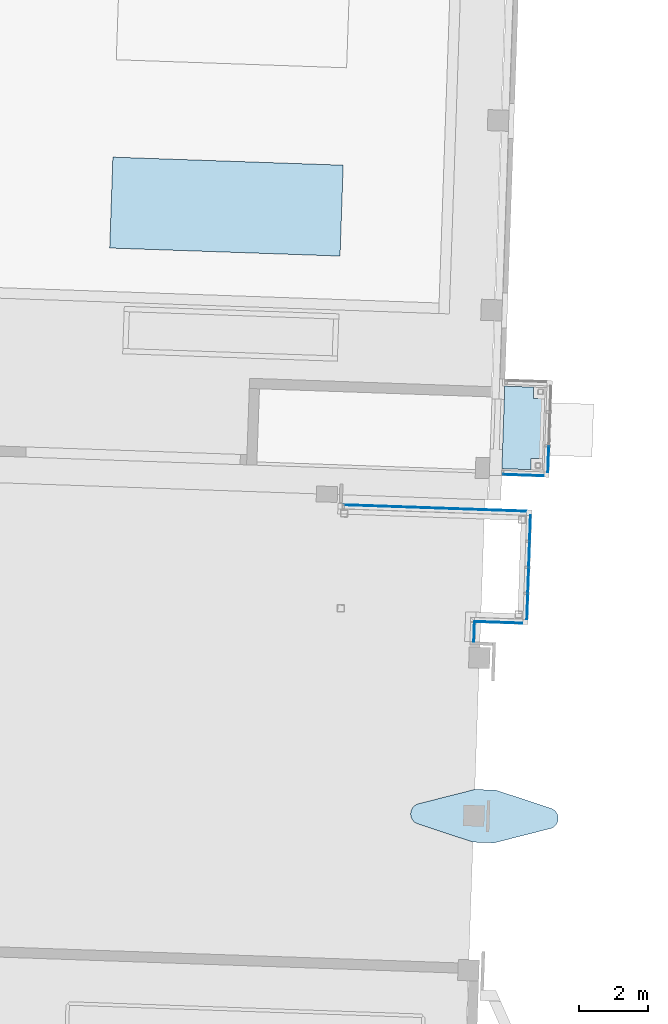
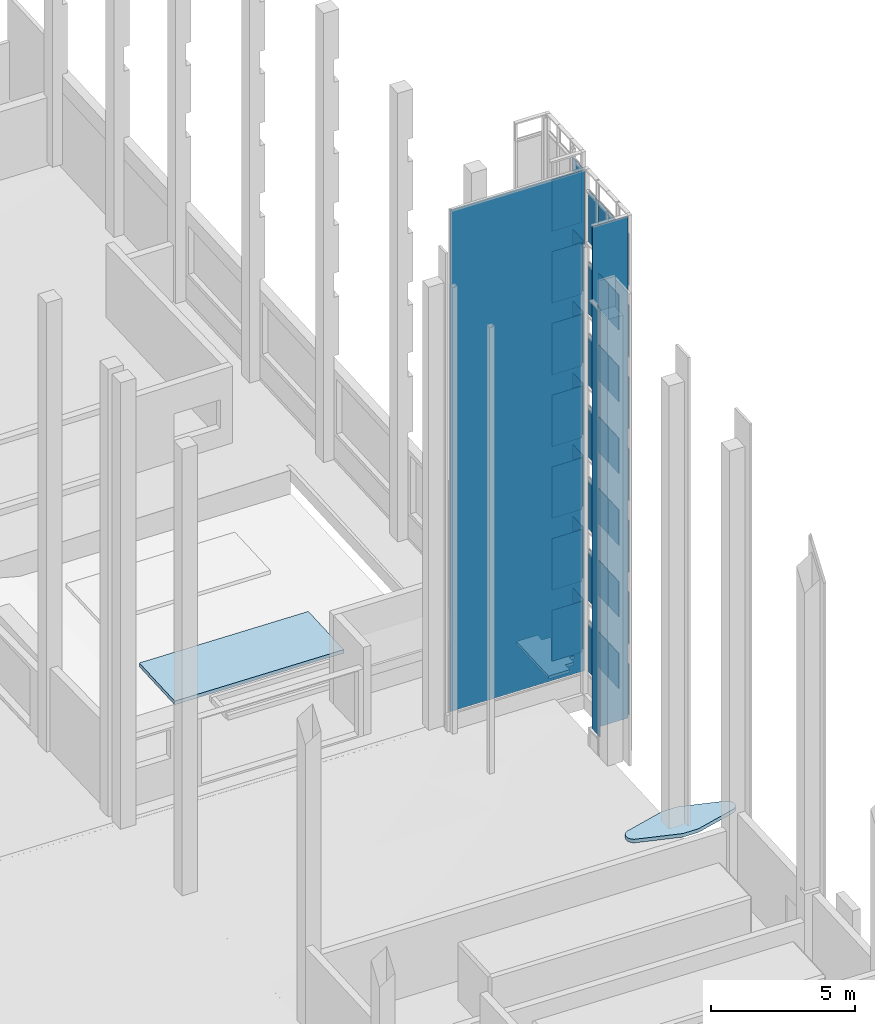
# One storey, part 23 of 44: 46 plates, 3 slabs, 6 elements without a shape of their own.
"""IFC2X3 building model written with IfcOpenShell, lengths in feet."""

from ifc_helpers import new_model, entity, si_unit, converted_unit, derived_unit, direction, frame, frame_2d, origin, origin_2d_with_axis, place, context, subcontext, project, spatial, polyline, circle_curve, parameter, trimmed, segment, composite_curve, rectangle, outline, extrude, source, transform, mapped, material, layer, layer_set, layer_usage, type_object, type_shapes, element, aggregate, save


model = new_model("IFC2X3")

# Units and contexts
model_context = context("Model", 3, precision=0.0001, world=origin(), true_north=direction((0.999390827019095, 0.0348994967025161)))
body_context = subcontext(model_context, "Body", "Model", "MODEL_VIEW")
ifc_project = project(units=[converted_unit("LENGTHUNIT", "FOOT", entity("IfcRatioMeasure", 0.3048), si_unit("LENGTHUNIT", "METRE"), dimensions=[1, 0, 0, 0, 0, 0, 0]), converted_unit("AREAUNIT", "SQUARE FOOT", entity("IfcRatioMeasure", 0.09290304), si_unit("AREAUNIT", "SQUARE_METRE"), dimensions=[2, 0, 0, 0, 0, 0, 0]), converted_unit("VOLUMEUNIT", "CUBIC FOOT", entity("IfcRatioMeasure", 0.028316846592), si_unit("VOLUMEUNIT", "CUBIC_METRE"), dimensions=[3, 0, 0, 0, 0, 0, 0]), converted_unit("PLANEANGLEUNIT", "DEGREE", entity("IfcRatioMeasure", 0.0174532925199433), si_unit("PLANEANGLEUNIT", "RADIAN"), dimensions=[0, 0, 0, 0, 0, 0, 0]), si_unit("MASSUNIT", "GRAM", prefix="KILO"), si_unit("TIMEUNIT", "SECOND"), si_unit("FREQUENCYUNIT", "HERTZ"), si_unit("THERMODYNAMICTEMPERATUREUNIT", "DEGREE_CELSIUS"), derived_unit("THERMALTRANSMITTANCEUNIT", [(si_unit("MASSUNIT", "GRAM", prefix="KILO"), 1), (si_unit("THERMODYNAMICTEMPERATUREUNIT", "KELVIN"), -1), (si_unit("TIMEUNIT", "SECOND"), -3)]), derived_unit("VOLUMETRICFLOWRATEUNIT", [(si_unit("LENGTHUNIT", "METRE"), 3), (si_unit("TIMEUNIT", "SECOND"), -1)]), si_unit("ELECTRICCURRENTUNIT", "AMPERE"), si_unit("ELECTRICVOLTAGEUNIT", "VOLT"), si_unit("POWERUNIT", "WATT"), si_unit("FORCEUNIT", "NEWTON"), si_unit("ILLUMINANCEUNIT", "LUX"), si_unit("LUMINOUSFLUXUNIT", "LUMEN"), si_unit("LUMINOUSINTENSITYUNIT", "CANDELA"), derived_unit("USERDEFINED", [(si_unit("MASSUNIT", "GRAM", prefix="KILO"), -1), (si_unit("LENGTHUNIT", "METRE"), -2), (si_unit("TIMEUNIT", "SECOND"), 3), (si_unit("LUMINOUSFLUXUNIT", "LUMEN"), 1)]), derived_unit("LINEARVELOCITYUNIT", [(si_unit("LENGTHUNIT", "METRE"), 1), (si_unit("TIMEUNIT", "SECOND"), -1)]), si_unit("PRESSUREUNIT", "PASCAL"), derived_unit("USERDEFINED", [(si_unit("LENGTHUNIT", "METRE"), -2), (si_unit("MASSUNIT", "GRAM", prefix="KILO"), 1), (si_unit("TIMEUNIT", "SECOND"), -2)])], contexts=[model_context])

# Site, building, storey
site_placement = place(None, frame((892.518771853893, 322.38689265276, 0.00393700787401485), z_axis=(0.0, 0.0, 1.0), x_axis=(0.0348994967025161, 0.999390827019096, 0.0)))
site = spatial("IfcSite", under=ifc_project, at=site_placement, Name="Default", CompositionType="ELEMENT")
building_placement = place(site_placement, origin())
building = spatial("IfcBuilding", under=site, at=building_placement, CompositionType="ELEMENT")
storey_placement = place(building_placement, frame((0.0, 0.0, 544.75)))
storey = spatial("IfcBuildingStorey", under=building, at=storey_placement, Name="Exist Garage - Ground Level", CompositionType="ELEMENT", Elevation=544.75)

# Curtain wall, plate
curtain_wall_type = type_object("IfcCurtainWallType", Name="Curtain Wall:(Existing) Curtainwall - Blank", PredefinedType="NOTDEFINED")
curtain_wall_1_placement = place(storey_placement, frame((0.0, 0.0, -544.75)))
curtain_wall_1 = element("IfcCurtainWall", 1, at=curtain_wall_1_placement, inside=storey, type_object=curtain_wall_type, Name="Curtain Wall:(Existing) Curtainwall - Blank", ObjectType="Curtain Wall:(Existing) Curtainwall - Blank")
ifc_material_1 = material(Name="Glazing - Core & Shell Curtain Wall")
plate_type_1 = type_object("IfcPlateType", Name="1\" Insulated Clear Glass", PredefinedType="CURTAIN_PANEL", material=ifc_material_1)
shared_shape_1 = source(origin(), body_context, "Body", "SweptSolid", [
    extrude(rectangle(XDim=0.0833333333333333, YDim=17.3732732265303, at=origin_2d_with_axis()), frame((0.0, 0.0, 0.0), z_axis=(0.0, 0.0, 1.0), x_axis=(0.0, 1.0, 0.0)), (0.0, 0.0, 1.0), 69.9479166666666),
])
type_shapes(plate_type_1, [shared_shape_1])
plate_1_placement = place(curtain_wall_1_placement, frame((101.968963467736, 241.450590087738, 547.130208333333), z_axis=(0.0, 0.0, 1.0), x_axis=(0.0, -1.0, 0.0)))
plate_1 = element("IfcPlate", 2, at=plate_1_placement, type_object=plate_type_1, material=ifc_material_1, Name="System Panel:1\" Insulated Clear Glass", ObjectType="1\" Insulated Clear Glass", context=body_context, shape_type="MappedRepresentation", body=[
    mapped(shared_shape_1, transform((0.0, 0.0, 0.0), scale=1.0)),
])
aggregate(curtain_wall_1, [plate_1])

# Curtain wall, plates
curtain_wall_2_placement = place(storey_placement, frame((0.0, 0.0, -544.75)))
curtain_wall_2 = element("IfcCurtainWall", 3, at=curtain_wall_2_placement, inside=storey, type_object=curtain_wall_type, Name="Curtain Wall:(Existing) Curtainwall - Blank", ObjectType="Curtain Wall:(Existing) Curtainwall - Blank")
plate_type_2 = type_object("IfcPlateType", Name="1\" Insulated Clear Glass", PredefinedType="CURTAIN_PANEL", material=ifc_material_1)
shared_shape_2 = source(origin(), body_context, "Body", "SweptSolid", [
    extrude(rectangle(XDim=7.09375, YDim=2.44270833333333, at=frame_2d((0.475694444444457, 0.0), x_axis=(1.0, 0.0))), frame((0.0, -0.0416666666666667, 3.07118055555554), z_axis=(0.0, 1.0, 0.0), x_axis=(0.0, 0.0, 1.0)), (0.0, 0.0, 1.0), 0.0833333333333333),
])
type_shapes(plate_type_2, [shared_shape_2])
plate_2_placement = place(curtain_wall_2_placement, frame((100.372609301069, 232.388953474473, 547.130208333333), z_axis=(0.0, 0.0, 1.0), x_axis=(-1.0, 0.0, 0.0)))
plate_2 = element("IfcPlate", 4, at=plate_2_placement, type_object=plate_type_2, material=ifc_material_1, Name="System Panel:1\" Insulated Clear Glass", ObjectType="1\" Insulated Clear Glass", context=body_context, shape_type="MappedRepresentation", body=[
    mapped(shared_shape_2, transform((0.0, 0.0, 0.0), scale=1.0)),
])
plate_3_placement = place(curtain_wall_2_placement, frame((92.9403176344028, 232.388953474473, 547.130208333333), z_axis=(0.0, 0.0, 1.0), x_axis=(-1.0, 0.0, 0.0)))
plate_3 = element("IfcPlate", 5, at=plate_3_placement, type_object=plate_type_2, material=ifc_material_1, Name="System Panel:1\" Insulated Clear Glass", ObjectType="1\" Insulated Clear Glass", context=body_context, shape_type="MappedRepresentation", body=[
    mapped(shared_shape_2, transform((0.0, 0.0, 0.0), scale=1.0)),
])
plate_type_3 = type_object("IfcPlateType", Name="1\" Insulated Clear Glass", PredefinedType="CURTAIN_PANEL", material=ifc_material_1)
shared_shape_3 = source(origin(), body_context, "Body", "SweptSolid", [
    extrude(rectangle(XDim=0.0833333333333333, YDim=2.41666666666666, at=origin_2d_with_axis()), frame((0.0, 0.0, 0.0), z_axis=(0.0, 0.0, 1.0), x_axis=(0.0, 1.0, 0.0)), (0.0, 0.0, 1.0), 4.94791666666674),
])
type_shapes(plate_type_3, [shared_shape_3])
plate_4_placement = place(curtain_wall_2_placement, frame((97.8908384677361, 232.388953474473, 549.276041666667), z_axis=(0.0, 0.0, 1.0), x_axis=(-1.0, 0.0, 0.0)))
plate_4 = element("IfcPlate", 6, at=plate_4_placement, type_object=plate_type_3, material=ifc_material_1, Name="System Panel:1\" Insulated Clear Glass", ObjectType="1\" Insulated Clear Glass", context=body_context, shape_type="MappedRepresentation", body=[
    mapped(shared_shape_3, transform((0.0, 0.0, 0.0), scale=1.0)),
])
plate_5_placement = place(curtain_wall_2_placement, frame((95.4220884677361, 232.388953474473, 549.276041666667), z_axis=(0.0, 0.0, 1.0), x_axis=(-1.0, 0.0, 0.0)))
plate_5 = element("IfcPlate", 7, at=plate_5_placement, type_object=plate_type_3, material=ifc_material_1, Name="System Panel:1\" Insulated Clear Glass", ObjectType="1\" Insulated Clear Glass", context=body_context, shape_type="MappedRepresentation", body=[
    mapped(shared_shape_3, transform((0.0, 0.0, 0.0), scale=1.0)),
])
plate_6_placement = place(curtain_wall_2_placement, frame((97.8908384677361, 232.388953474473, 559.276041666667), z_axis=(0.0, 0.0, 1.0), x_axis=(-1.0, 0.0, 0.0)))
plate_6 = element("IfcPlate", 8, at=plate_6_placement, type_object=plate_type_3, material=ifc_material_1, Name="System Panel:1\" Insulated Clear Glass", ObjectType="1\" Insulated Clear Glass", context=body_context, shape_type="MappedRepresentation", body=[
    mapped(shared_shape_3, transform((0.0, 0.0, 0.0), scale=1.0)),
])
plate_7_placement = place(curtain_wall_2_placement, frame((95.4220884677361, 232.388953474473, 559.276041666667), z_axis=(0.0, 0.0, 1.0), x_axis=(-1.0, 0.0, 0.0)))
plate_7 = element("IfcPlate", 9, at=plate_7_placement, type_object=plate_type_3, material=ifc_material_1, Name="System Panel:1\" Insulated Clear Glass", ObjectType="1\" Insulated Clear Glass", context=body_context, shape_type="MappedRepresentation", body=[
    mapped(shared_shape_3, transform((0.0, 0.0, 0.0), scale=1.0)),
])
plate_8_placement = place(curtain_wall_2_placement, frame((97.8908384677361, 232.388953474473, 569.276041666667), z_axis=(0.0, 0.0, 1.0), x_axis=(-1.0, 0.0, 0.0)))
plate_8 = element("IfcPlate", 10, at=plate_8_placement, type_object=plate_type_3, material=ifc_material_1, Name="System Panel:1\" Insulated Clear Glass", ObjectType="1\" Insulated Clear Glass", context=body_context, shape_type="MappedRepresentation", body=[
    mapped(shared_shape_3, transform((0.0, 0.0, 0.0), scale=1.0)),
])
plate_9_placement = place(curtain_wall_2_placement, frame((95.4220884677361, 232.388953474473, 569.276041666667), z_axis=(0.0, 0.0, 1.0), x_axis=(-1.0, 0.0, 0.0)))
plate_9 = element("IfcPlate", 11, at=plate_9_placement, type_object=plate_type_3, material=ifc_material_1, Name="System Panel:1\" Insulated Clear Glass", ObjectType="1\" Insulated Clear Glass", context=body_context, shape_type="MappedRepresentation", body=[
    mapped(shared_shape_3, transform((0.0, 0.0, 0.0), scale=1.0)),
])
plate_10_placement = place(curtain_wall_2_placement, frame((97.8908384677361, 232.388953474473, 579.276041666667), z_axis=(0.0, 0.0, 1.0), x_axis=(-1.0, 0.0, 0.0)))
plate_10 = element("IfcPlate", 12, at=plate_10_placement, type_object=plate_type_3, material=ifc_material_1, Name="System Panel:1\" Insulated Clear Glass", ObjectType="1\" Insulated Clear Glass", context=body_context, shape_type="MappedRepresentation", body=[
    mapped(shared_shape_3, transform((0.0, 0.0, 0.0), scale=1.0)),
])
plate_11_placement = place(curtain_wall_2_placement, frame((95.4220884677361, 232.388953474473, 579.276041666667), z_axis=(0.0, 0.0, 1.0), x_axis=(-1.0, 0.0, 0.0)))
plate_11 = element("IfcPlate", 13, at=plate_11_placement, type_object=plate_type_3, material=ifc_material_1, Name="System Panel:1\" Insulated Clear Glass", ObjectType="1\" Insulated Clear Glass", context=body_context, shape_type="MappedRepresentation", body=[
    mapped(shared_shape_3, transform((0.0, 0.0, 0.0), scale=1.0)),
])
plate_12_placement = place(curtain_wall_2_placement, frame((97.8908384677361, 232.388953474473, 589.276041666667), z_axis=(0.0, 0.0, 1.0), x_axis=(-1.0, 0.0, 0.0)))
plate_12 = element("IfcPlate", 14, at=plate_12_placement, type_object=plate_type_3, material=ifc_material_1, Name="System Panel:1\" Insulated Clear Glass", ObjectType="1\" Insulated Clear Glass", context=body_context, shape_type="MappedRepresentation", body=[
    mapped(shared_shape_3, transform((0.0, 0.0, 0.0), scale=1.0)),
])
plate_13_placement = place(curtain_wall_2_placement, frame((95.4220884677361, 232.388953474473, 589.276041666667), z_axis=(0.0, 0.0, 1.0), x_axis=(-1.0, 0.0, 0.0)))
plate_13 = element("IfcPlate", 15, at=plate_13_placement, type_object=plate_type_3, material=ifc_material_1, Name="System Panel:1\" Insulated Clear Glass", ObjectType="1\" Insulated Clear Glass", context=body_context, shape_type="MappedRepresentation", body=[
    mapped(shared_shape_3, transform((0.0, 0.0, 0.0), scale=1.0)),
])
plate_14_placement = place(curtain_wall_2_placement, frame((97.8908384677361, 232.388953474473, 599.276041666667), z_axis=(0.0, 0.0, 1.0), x_axis=(-1.0, 0.0, 0.0)))
plate_14 = element("IfcPlate", 16, at=plate_14_placement, type_object=plate_type_3, material=ifc_material_1, Name="System Panel:1\" Insulated Clear Glass", ObjectType="1\" Insulated Clear Glass", context=body_context, shape_type="MappedRepresentation", body=[
    mapped(shared_shape_3, transform((0.0, 0.0, 0.0), scale=1.0)),
])
plate_15_placement = place(curtain_wall_2_placement, frame((95.4220884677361, 232.388953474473, 599.276041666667), z_axis=(0.0, 0.0, 1.0), x_axis=(-1.0, 0.0, 0.0)))
plate_15 = element("IfcPlate", 17, at=plate_15_placement, type_object=plate_type_3, material=ifc_material_1, Name="System Panel:1\" Insulated Clear Glass", ObjectType="1\" Insulated Clear Glass", context=body_context, shape_type="MappedRepresentation", body=[
    mapped(shared_shape_3, transform((0.0, 0.0, 0.0), scale=1.0)),
])
plate_16_placement = place(curtain_wall_2_placement, frame((97.8908384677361, 232.388953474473, 609.276041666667), z_axis=(0.0, 0.0, 1.0), x_axis=(-1.0, 0.0, 0.0)))
plate_16 = element("IfcPlate", 18, at=plate_16_placement, type_object=plate_type_3, material=ifc_material_1, Name="System Panel:1\" Insulated Clear Glass", ObjectType="1\" Insulated Clear Glass", context=body_context, shape_type="MappedRepresentation", body=[
    mapped(shared_shape_3, transform((0.0, 0.0, 0.0), scale=1.0)),
])
plate_17_placement = place(curtain_wall_2_placement, frame((95.4220884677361, 232.388953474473, 609.276041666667), z_axis=(0.0, 0.0, 1.0), x_axis=(-1.0, 0.0, 0.0)))
plate_17 = element("IfcPlate", 19, at=plate_17_placement, type_object=plate_type_3, material=ifc_material_1, Name="System Panel:1\" Insulated Clear Glass", ObjectType="1\" Insulated Clear Glass", context=body_context, shape_type="MappedRepresentation", body=[
    mapped(shared_shape_3, transform((0.0, 0.0, 0.0), scale=1.0)),
])
plate_type_4 = type_object("IfcPlateType", Name="1\" Insulated Clear Glass", PredefinedType="CURTAIN_PANEL", material=ifc_material_1)
shared_shape_4 = source(origin(), body_context, "Body", "SweptSolid", [
    extrude(rectangle(XDim=7.19791666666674, YDim=2.44270833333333, at=frame_2d((0.458333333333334, 0.0), x_axis=(1.0, 0.0))), frame((0.0, -0.0416666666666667, 3.14062500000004), z_axis=(0.0, 1.0, 0.0), x_axis=(0.0, 0.0, 1.0)), (0.0, 0.0, 1.0), 0.0833333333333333),
])
type_shapes(plate_type_4, [shared_shape_4])
plate_18_placement = place(curtain_wall_2_placement, frame((100.372609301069, 232.388953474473, 557.026041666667), z_axis=(0.0, 0.0, 1.0), x_axis=(-1.0, 0.0, 0.0)))
plate_18 = element("IfcPlate", 20, at=plate_18_placement, type_object=plate_type_4, material=ifc_material_1, Name="System Panel:1\" Insulated Clear Glass", ObjectType="1\" Insulated Clear Glass", context=body_context, shape_type="MappedRepresentation", body=[
    mapped(shared_shape_4, transform((0.0, 0.0, 0.0), scale=1.0)),
])
plate_19_placement = place(curtain_wall_2_placement, frame((92.9403176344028, 232.388953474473, 557.026041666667), z_axis=(0.0, 0.0, 1.0), x_axis=(-1.0, 0.0, 0.0)))
plate_19 = element("IfcPlate", 21, at=plate_19_placement, type_object=plate_type_4, material=ifc_material_1, Name="System Panel:1\" Insulated Clear Glass", ObjectType="1\" Insulated Clear Glass", context=body_context, shape_type="MappedRepresentation", body=[
    mapped(shared_shape_4, transform((0.0, 0.0, 0.0), scale=1.0)),
])
plate_20_placement = place(curtain_wall_2_placement, frame((100.372609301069, 232.388953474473, 567.026041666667), z_axis=(0.0, 0.0, 1.0), x_axis=(-1.0, 0.0, 0.0)))
plate_20 = element("IfcPlate", 22, at=plate_20_placement, type_object=plate_type_4, material=ifc_material_1, Name="System Panel:1\" Insulated Clear Glass", ObjectType="1\" Insulated Clear Glass", context=body_context, shape_type="MappedRepresentation", body=[
    mapped(shared_shape_4, transform((0.0, 0.0, 0.0), scale=1.0)),
])
plate_21_placement = place(curtain_wall_2_placement, frame((92.9403176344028, 232.388953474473, 567.026041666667), z_axis=(0.0, 0.0, 1.0), x_axis=(-1.0, 0.0, 0.0)))
plate_21 = element("IfcPlate", 23, at=plate_21_placement, type_object=plate_type_4, material=ifc_material_1, Name="System Panel:1\" Insulated Clear Glass", ObjectType="1\" Insulated Clear Glass", context=body_context, shape_type="MappedRepresentation", body=[
    mapped(shared_shape_4, transform((0.0, 0.0, 0.0), scale=1.0)),
])
plate_22_placement = place(curtain_wall_2_placement, frame((100.372609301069, 232.388953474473, 577.026041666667), z_axis=(0.0, 0.0, 1.0), x_axis=(-1.0, 0.0, 0.0)))
plate_22 = element("IfcPlate", 24, at=plate_22_placement, type_object=plate_type_4, material=ifc_material_1, Name="System Panel:1\" Insulated Clear Glass", ObjectType="1\" Insulated Clear Glass", context=body_context, shape_type="MappedRepresentation", body=[
    mapped(shared_shape_4, transform((0.0, 0.0, 0.0), scale=1.0)),
])
plate_23_placement = place(curtain_wall_2_placement, frame((92.9403176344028, 232.388953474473, 577.026041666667), z_axis=(0.0, 0.0, 1.0), x_axis=(-1.0, 0.0, 0.0)))
plate_23 = element("IfcPlate", 25, at=plate_23_placement, type_object=plate_type_4, material=ifc_material_1, Name="System Panel:1\" Insulated Clear Glass", ObjectType="1\" Insulated Clear Glass", context=body_context, shape_type="MappedRepresentation", body=[
    mapped(shared_shape_4, transform((0.0, 0.0, 0.0), scale=1.0)),
])
plate_24_placement = place(curtain_wall_2_placement, frame((100.372609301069, 232.388953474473, 587.026041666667), z_axis=(0.0, 0.0, 1.0), x_axis=(-1.0, 0.0, 0.0)))
plate_24 = element("IfcPlate", 26, at=plate_24_placement, type_object=plate_type_4, material=ifc_material_1, Name="System Panel:1\" Insulated Clear Glass", ObjectType="1\" Insulated Clear Glass", context=body_context, shape_type="MappedRepresentation", body=[
    mapped(shared_shape_4, transform((0.0, 0.0, 0.0), scale=1.0)),
])
plate_25_placement = place(curtain_wall_2_placement, frame((92.9403176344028, 232.388953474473, 587.026041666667), z_axis=(0.0, 0.0, 1.0), x_axis=(-1.0, 0.0, 0.0)))
plate_25 = element("IfcPlate", 27, at=plate_25_placement, type_object=plate_type_4, material=ifc_material_1, Name="System Panel:1\" Insulated Clear Glass", ObjectType="1\" Insulated Clear Glass", context=body_context, shape_type="MappedRepresentation", body=[
    mapped(shared_shape_4, transform((0.0, 0.0, 0.0), scale=1.0)),
])
plate_26_placement = place(curtain_wall_2_placement, frame((100.372609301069, 232.388953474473, 597.026041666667), z_axis=(0.0, 0.0, 1.0), x_axis=(-1.0, 0.0, 0.0)))
plate_26 = element("IfcPlate", 28, at=plate_26_placement, type_object=plate_type_4, material=ifc_material_1, Name="System Panel:1\" Insulated Clear Glass", ObjectType="1\" Insulated Clear Glass", context=body_context, shape_type="MappedRepresentation", body=[
    mapped(shared_shape_4, transform((0.0, 0.0, 0.0), scale=1.0)),
])
plate_27_placement = place(curtain_wall_2_placement, frame((92.9403176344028, 232.388953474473, 597.026041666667), z_axis=(0.0, 0.0, 1.0), x_axis=(-1.0, 0.0, 0.0)))
plate_27 = element("IfcPlate", 29, at=plate_27_placement, type_object=plate_type_4, material=ifc_material_1, Name="System Panel:1\" Insulated Clear Glass", ObjectType="1\" Insulated Clear Glass", context=body_context, shape_type="MappedRepresentation", body=[
    mapped(shared_shape_4, transform((0.0, 0.0, 0.0), scale=1.0)),
])
plate_28_placement = place(curtain_wall_2_placement, frame((100.372609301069, 232.388953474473, 607.026041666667), z_axis=(0.0, 0.0, 1.0), x_axis=(-1.0, 0.0, 0.0)))
plate_28 = element("IfcPlate", 30, at=plate_28_placement, type_object=plate_type_4, material=ifc_material_1, Name="System Panel:1\" Insulated Clear Glass", ObjectType="1\" Insulated Clear Glass", context=body_context, shape_type="MappedRepresentation", body=[
    mapped(shared_shape_4, transform((0.0, 0.0, 0.0), scale=1.0)),
])
plate_29_placement = place(curtain_wall_2_placement, frame((92.9403176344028, 232.388953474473, 607.026041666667), z_axis=(0.0, 0.0, 1.0), x_axis=(-1.0, 0.0, 0.0)))
plate_29 = element("IfcPlate", 31, at=plate_29_placement, type_object=plate_type_4, material=ifc_material_1, Name="System Panel:1\" Insulated Clear Glass", ObjectType="1\" Insulated Clear Glass", context=body_context, shape_type="MappedRepresentation", body=[
    mapped(shared_shape_4, transform((0.0, 0.0, 0.0), scale=1.0)),
])
aggregate(curtain_wall_2, [plate_2, plate_3, plate_4, plate_5, plate_18, plate_19, plate_6, plate_7, plate_20, plate_21, plate_8, plate_9, plate_22, plate_23, plate_10, plate_11, plate_24, plate_25, plate_12, plate_13, plate_26, plate_27, plate_14, plate_15, plate_28, plate_29, plate_16, plate_17])

# Curtain wall, plate
curtain_wall_3_placement = place(storey_placement, frame((0.0, 0.0, -544.75)))
curtain_wall_3 = element("IfcCurtainWall", 32, at=curtain_wall_3_placement, inside=storey, type_object=curtain_wall_type, Name="Curtain Wall:(Existing) Curtainwall - Blank", ObjectType="Curtain Wall:(Existing) Curtainwall - Blank")
plate_type_5 = type_object("IfcPlateType", Name="1\" Insulated Clear Glass", PredefinedType="CURTAIN_PANEL", material=ifc_material_1)
shared_shape_5 = source(origin(), body_context, "Body", "SweptSolid", [
    extrude(rectangle(XDim=0.0833333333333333, YDim=4.58333333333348, at=origin_2d_with_axis()), frame((0.0, 0.0, 0.0), z_axis=(0.0, 0.0, 1.0), x_axis=(0.0, 1.0, 0.0)), (0.0, 0.0, 1.0), 69.9479166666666),
])
type_shapes(plate_type_5, [shared_shape_5])
plate_30_placement = place(curtain_wall_3_placement, frame((91.3439634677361, 235.05562014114, 547.130208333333), z_axis=(0.0, 0.0, 1.0), x_axis=(0.0, 1.0, 0.0)))
plate_30 = element("IfcPlate", 33, at=plate_30_placement, type_object=plate_type_5, material=ifc_material_1, Name="System Panel:1\" Insulated Clear Glass", ObjectType="1\" Insulated Clear Glass", context=body_context, shape_type="MappedRepresentation", body=[
    mapped(shared_shape_5, transform((0.0, 0.0, 0.0), scale=1.0)),
])
aggregate(curtain_wall_3, [plate_30])

curtain_wall_4_placement = place(storey_placement, frame((0.0, 0.0, -544.75)))
curtain_wall_4 = element("IfcCurtainWall", 34, at=curtain_wall_4_placement, inside=storey, type_object=curtain_wall_type, Name="Curtain Wall:(Existing) Curtainwall - Blank", ObjectType="Curtain Wall:(Existing) Curtainwall - Blank")
plate_type_6 = type_object("IfcPlateType", Name="1\" Insulated Clear Glass", PredefinedType="CURTAIN_PANEL", material=ifc_material_1)
shared_shape_6 = source(origin(), body_context, "Body", "SweptSolid", [
    extrude(rectangle(XDim=0.0833333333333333, YDim=1.91666666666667, at=origin_2d_with_axis()), frame((0.0, 0.0, 0.0), z_axis=(0.0, 0.0, 1.0), x_axis=(0.0, 1.0, 0.0)), (0.0, 0.0, 1.0), 59.7395833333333),
])
type_shapes(plate_type_6, [shared_shape_6])
plate_31_placement = place(curtain_wall_4_placement, frame((90.3856301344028, 237.347286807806, 547.130208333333), z_axis=(0.0, 0.0, 1.0), x_axis=(-1.0, 0.0, 0.0)))
plate_31 = element("IfcPlate", 35, at=plate_31_placement, type_object=plate_type_6, material=ifc_material_1, Name="System Panel:1\" Insulated Clear Glass", ObjectType="1\" Insulated Clear Glass", context=body_context, shape_type="MappedRepresentation", body=[
    mapped(shared_shape_6, transform((0.0, 0.0, 0.0), scale=1.0)),
])
aggregate(curtain_wall_4, [plate_31])

# Curtain wall, plates
curtain_wall_5_placement = place(storey_placement, frame((0.0, 0.0, -544.75)))
curtain_wall_5 = element("IfcCurtainWall", 36, at=curtain_wall_5_placement, inside=storey, type_object=curtain_wall_type, Name="Curtain Wall:(Existing) Curtainwall - Blank", ObjectType="Curtain Wall:(Existing) Curtainwall - Blank")
plate_type_7 = type_object("IfcPlateType", Name="1\" Insulated Clear Glass", PredefinedType="CURTAIN_PANEL", material=ifc_material_1)
shared_shape_7 = source(origin(), body_context, "Body", "SweptSolid", [
    extrude(rectangle(XDim=0.0833333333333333, YDim=3.86979166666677, at=origin_2d_with_axis()), frame((0.0, 0.0, 0.0), z_axis=(0.0, 0.0, 1.0), x_axis=(0.0, 1.0, 0.0)), (0.0, 0.0, 1.0), 7.09375),
])
type_shapes(plate_type_7, [shared_shape_7])
plate_32_placement = place(curtain_wall_5_placement, frame((105.385626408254, 233.198849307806, 547.130208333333), z_axis=(0.0, 0.0, 1.0), x_axis=(0.0, -1.0, 0.0)))
plate_32 = element("IfcPlate", 37, at=plate_32_placement, type_object=plate_type_7, material=ifc_material_1, Name="System Panel:1\" Insulated Clear Glass", ObjectType="1\" Insulated Clear Glass", context=body_context, shape_type="MappedRepresentation", body=[
    mapped(shared_shape_7, transform((0.0, 0.0, 0.0), scale=1.0)),
])
plate_type_8 = type_object("IfcPlateType", Name="1\" Insulated Clear Glass", PredefinedType="CURTAIN_PANEL", material=ifc_material_1)
shared_shape_8 = source(origin(), body_context, "Body", "SweptSolid", [
    extrude(rectangle(XDim=0.0833333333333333, YDim=3.86979166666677, at=origin_2d_with_axis()), frame((0.0, 0.0, 0.0), z_axis=(0.0, 0.0, 1.0), x_axis=(0.0, 1.0, 0.0)), (0.0, 0.0, 1.0), 7.19791666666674),
])
type_shapes(plate_type_8, [shared_shape_8])
plate_33_placement = place(curtain_wall_5_placement, frame((105.385626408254, 233.198849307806, 557.026041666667), z_axis=(0.0, 0.0, 1.0), x_axis=(0.0, -1.0, 0.0)))
plate_33 = element("IfcPlate", 38, at=plate_33_placement, type_object=plate_type_8, material=ifc_material_1, Name="System Panel:1\" Insulated Clear Glass", ObjectType="1\" Insulated Clear Glass", context=body_context, shape_type="MappedRepresentation", body=[
    mapped(shared_shape_8, transform((0.0, 0.0, 0.0), scale=1.0)),
])
plate_34_placement = place(curtain_wall_5_placement, frame((105.385626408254, 233.198849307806, 567.026041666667), z_axis=(0.0, 0.0, 1.0), x_axis=(0.0, -1.0, 0.0)))
plate_34 = element("IfcPlate", 39, at=plate_34_placement, type_object=plate_type_8, material=ifc_material_1, Name="System Panel:1\" Insulated Clear Glass", ObjectType="1\" Insulated Clear Glass", context=body_context, shape_type="MappedRepresentation", body=[
    mapped(shared_shape_8, transform((0.0, 0.0, 0.0), scale=1.0)),
])
plate_35_placement = place(curtain_wall_5_placement, frame((105.385626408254, 233.198849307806, 577.026041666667), z_axis=(0.0, 0.0, 1.0), x_axis=(0.0, -1.0, 0.0)))
plate_35 = element("IfcPlate", 40, at=plate_35_placement, type_object=plate_type_8, material=ifc_material_1, Name="System Panel:1\" Insulated Clear Glass", ObjectType="1\" Insulated Clear Glass", context=body_context, shape_type="MappedRepresentation", body=[
    mapped(shared_shape_8, transform((0.0, 0.0, 0.0), scale=1.0)),
])
plate_36_placement = place(curtain_wall_5_placement, frame((105.385626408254, 233.198849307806, 587.026041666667), z_axis=(0.0, 0.0, 1.0), x_axis=(0.0, -1.0, 0.0)))
plate_36 = element("IfcPlate", 41, at=plate_36_placement, type_object=plate_type_8, material=ifc_material_1, Name="System Panel:1\" Insulated Clear Glass", ObjectType="1\" Insulated Clear Glass", context=body_context, shape_type="MappedRepresentation", body=[
    mapped(shared_shape_8, transform((0.0, 0.0, 0.0), scale=1.0)),
])
plate_37_placement = place(curtain_wall_5_placement, frame((105.385626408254, 233.198849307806, 597.026041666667), z_axis=(0.0, 0.0, 1.0), x_axis=(0.0, -1.0, 0.0)))
plate_37 = element("IfcPlate", 42, at=plate_37_placement, type_object=plate_type_8, material=ifc_material_1, Name="System Panel:1\" Insulated Clear Glass", ObjectType="1\" Insulated Clear Glass", context=body_context, shape_type="MappedRepresentation", body=[
    mapped(shared_shape_8, transform((0.0, 0.0, 0.0), scale=1.0)),
])
plate_38_placement = place(curtain_wall_5_placement, frame((105.385626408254, 233.198849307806, 607.026041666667), z_axis=(0.0, 0.0, 1.0), x_axis=(0.0, -1.0, 0.0)))
plate_38 = element("IfcPlate", 43, at=plate_38_placement, type_object=plate_type_8, material=ifc_material_1, Name="System Panel:1\" Insulated Clear Glass", ObjectType="1\" Insulated Clear Glass", context=body_context, shape_type="MappedRepresentation", body=[
    mapped(shared_shape_8, transform((0.0, 0.0, 0.0), scale=1.0)),
])
aggregate(curtain_wall_5, [plate_32, plate_33, plate_34, plate_35, plate_36, plate_37, plate_38])

curtain_wall_6_placement = place(storey_placement, frame((0.0, 0.0, -544.75)))
curtain_wall_6 = element("IfcCurtainWall", 44, at=curtain_wall_6_placement, inside=storey, type_object=curtain_wall_type, Name="Curtain Wall:(Existing) Curtainwall - Blank", ObjectType="Curtain Wall:(Existing) Curtainwall - Blank")
plate_type_9 = type_object("IfcPlateType", Name="1\" Insulated Clear Glass", PredefinedType="CURTAIN_PANEL", material=ifc_material_1)
shared_shape_9 = source(origin(), body_context, "Body", "SweptSolid", [
    extrude(outline(polyline([(-3.15277777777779, -0.765625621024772), (-3.15277777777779, -0.843750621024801), (3.92534722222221, -0.843750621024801), (3.92534722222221, 1.60937624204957), (-0.772569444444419, 1.60937624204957), (-0.772569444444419, -0.765625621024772), (-3.15277777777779, -0.765625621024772)])), frame((0.38281281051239, -0.0416666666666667, 3.15277777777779), z_axis=(0.0, -1.0, 0.0), x_axis=(0.0, 0.0, 1.0)), (0.0, 0.0, -1.0), 0.0833333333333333),
])
type_shapes(plate_type_9, [shared_shape_9])
plate_39_placement = place(curtain_wall_6_placement, frame((106.987189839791, 230.888953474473, 544.75)))
plate_39 = element("IfcPlate", 45, at=plate_39_placement, type_object=plate_type_9, material=ifc_material_1, Name="System Panel:1\" Insulated Clear Glass", ObjectType="1\" Insulated Clear Glass", context=body_context, shape_type="MappedRepresentation", body=[
    mapped(shared_shape_9, transform((0.0, 0.0, 0.0), scale=1.0)),
])
plate_type_10 = type_object("IfcPlateType", Name="1\" Insulated Clear Glass", PredefinedType="CURTAIN_PANEL", material=ifc_material_1)
shared_shape_10 = source(origin(), body_context, "Body", "SweptSolid", [
    extrude(rectangle(XDim=0.0833333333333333, YDim=2.45312686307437, at=origin_2d_with_axis()), frame((0.0, 0.0, 0.0), z_axis=(0.0, 0.0, 1.0), x_axis=(0.0, 1.0, 0.0)), (0.0, 0.0, 1.0), 2.34375000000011),
])
type_shapes(plate_type_10, [shared_shape_10])
plate_40_placement = place(curtain_wall_6_placement, frame((106.987189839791, 230.888953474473, 551.880208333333)))
plate_40 = element("IfcPlate", 46, at=plate_40_placement, type_object=plate_type_10, material=ifc_material_1, Name="System Panel:1\" Insulated Clear Glass", ObjectType="1\" Insulated Clear Glass", context=body_context, shape_type="MappedRepresentation", body=[
    mapped(shared_shape_10, transform((0.0, 0.0, 0.0), scale=1.0)),
])
plate_type_11 = type_object("IfcPlateType", Name="1\" Insulated Clear Glass", PredefinedType="CURTAIN_PANEL", material=ifc_material_1)
shared_shape_11 = source(origin(), body_context, "Body", "SweptSolid", [
    extrude(rectangle(XDim=7.19791666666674, YDim=2.45312686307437, at=frame_2d((0.458333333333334, 0.0), x_axis=(1.0, 0.0))), frame((0.0, -0.0416666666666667, 3.14062500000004), z_axis=(0.0, 1.0, 0.0), x_axis=(0.0, 0.0, 1.0)), (0.0, 0.0, 1.0), 0.0833333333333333),
])
type_shapes(plate_type_11, [shared_shape_11])
plate_41_placement = place(curtain_wall_6_placement, frame((106.987189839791, 230.888953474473, 557.026041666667)))
plate_41 = element("IfcPlate", 47, at=plate_41_placement, type_object=plate_type_11, material=ifc_material_1, Name="System Panel:1\" Insulated Clear Glass", ObjectType="1\" Insulated Clear Glass", context=body_context, shape_type="MappedRepresentation", body=[
    mapped(shared_shape_11, transform((0.0, 0.0, 0.0), scale=1.0)),
])
plate_42_placement = place(curtain_wall_6_placement, frame((106.987189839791, 230.888953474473, 567.026041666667)))
plate_42 = element("IfcPlate", 48, at=plate_42_placement, type_object=plate_type_11, material=ifc_material_1, Name="System Panel:1\" Insulated Clear Glass", ObjectType="1\" Insulated Clear Glass", context=body_context, shape_type="MappedRepresentation", body=[
    mapped(shared_shape_11, transform((0.0, 0.0, 0.0), scale=1.0)),
])
plate_43_placement = place(curtain_wall_6_placement, frame((106.987189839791, 230.888953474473, 577.026041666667)))
plate_43 = element("IfcPlate", 49, at=plate_43_placement, type_object=plate_type_11, material=ifc_material_1, Name="System Panel:1\" Insulated Clear Glass", ObjectType="1\" Insulated Clear Glass", context=body_context, shape_type="MappedRepresentation", body=[
    mapped(shared_shape_11, transform((0.0, 0.0, 0.0), scale=1.0)),
])
plate_44_placement = place(curtain_wall_6_placement, frame((106.987189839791, 230.888953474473, 587.026041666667)))
plate_44 = element("IfcPlate", 50, at=plate_44_placement, type_object=plate_type_11, material=ifc_material_1, Name="System Panel:1\" Insulated Clear Glass", ObjectType="1\" Insulated Clear Glass", context=body_context, shape_type="MappedRepresentation", body=[
    mapped(shared_shape_11, transform((0.0, 0.0, 0.0), scale=1.0)),
])
plate_45_placement = place(curtain_wall_6_placement, frame((106.987189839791, 230.888953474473, 597.026041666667)))
plate_45 = element("IfcPlate", 51, at=plate_45_placement, type_object=plate_type_11, material=ifc_material_1, Name="System Panel:1\" Insulated Clear Glass", ObjectType="1\" Insulated Clear Glass", context=body_context, shape_type="MappedRepresentation", body=[
    mapped(shared_shape_11, transform((0.0, 0.0, 0.0), scale=1.0)),
])
plate_46_placement = place(curtain_wall_6_placement, frame((106.987189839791, 230.888953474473, 607.026041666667)))
plate_46 = element("IfcPlate", 52, at=plate_46_placement, type_object=plate_type_11, material=ifc_material_1, Name="System Panel:1\" Insulated Clear Glass", ObjectType="1\" Insulated Clear Glass", context=body_context, shape_type="MappedRepresentation", body=[
    mapped(shared_shape_11, transform((0.0, 0.0, 0.0), scale=1.0)),
])
aggregate(curtain_wall_6, [plate_39, plate_40, plate_41, plate_42, plate_43, plate_44, plate_45, plate_46])

# Slabs
ifc_material_2 = material(Name="Concrete - Cast-in-Place Concrete")
ifc_layer_1 = layer(ifc_material_2, 0.5)
ifc_layer_set_1 = layer_set([ifc_layer_1], Name="Floor:Concrete Slab - 6\"")
ifc_layer_usage_1 = layer_usage(ifc_layer_set_1, "AXIS3", "POSITIVE", 0.0)
slab_1_placement = place(storey_placement, origin())
element("IfcSlab", 53, at=slab_1_placement, inside=storey, material=ifc_layer_usage_1, Name="Floor:Concrete Slab - 6\"", ObjectType="Floor:Concrete Slab - 6\"", PredefinedType="FLOOR", context=body_context, shape_type="SweptSolid", body=[
    extrude(outline(composite_curve([segment(polyline([(-0.999994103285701, -2.49995347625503), (0.999996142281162, -2.49995347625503)]), True, "CONTINUOUS"), segment(polyline([(0.999996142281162, -2.49995347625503), (6.28013926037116, -0.960025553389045)]), True, "CONTINUOUS"), segment(trimmed(circle_curve(frame_2d((5.99999879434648, -6.65337976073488e-05), x_axis=(0.280140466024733, -0.959959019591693)), 0.999999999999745), [parameter(0.0)], [parameter(147.478321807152)], True, "PARAMETER"), True, "CONTINUOUS"), segment(polyline([(6.27987958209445, 0.959968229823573), (0.997170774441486, 2.50004652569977)]), True, "CONTINUOUS"), segment(polyline([(0.997170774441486, 2.50004652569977), (-0.997167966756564, 2.50004652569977)]), True, "CONTINUOUS"), segment(polyline([(-0.997167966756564, 2.50004652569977), (-6.27988747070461, 0.959932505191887)]), True, "CONTINUOUS"), segment(trimmed(circle_curve(frame_2d((-6.00000122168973, -0.00010066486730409), x_axis=(-0.279886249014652, 0.960033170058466)), 1.00000000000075), [parameter(0.0)], [parameter(147.478322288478)], True, "PARAMETER"), True, "CONTINUOUS"), segment(polyline([(-6.28013621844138, -0.960061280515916), (-0.999994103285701, -2.49995347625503)]), True, "CONTINUOUS")], self_intersect=False)), frame((72.926916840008, 235.764193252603, 0.5), z_axis=(0.0, 0.0, -1.0), x_axis=(0.0, 1.0, 0.0)), (0.0, 0.0, 1.0), 0.5),
])
ifc_layer_2 = layer(ifc_material_2, 0.416666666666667)
ifc_layer_set_2 = layer_set([ifc_layer_2], Name="Floor:Concrete Slab - 5\"")
ifc_layer_usage_2 = layer_usage(ifc_layer_set_2, "AXIS3", "POSITIVE", 0.0)
slab_2_placement = place(storey_placement, origin())
element("IfcSlab", 54, at=slab_2_placement, inside=storey, material=ifc_layer_usage_2, Name="Floor:Concrete Slab - 5\"", ObjectType="Floor:Concrete Slab - 5\"", PredefinedType="FLOOR", context=body_context, shape_type="SweptSolid", body=[
    extrude(outline(polyline([(0.194444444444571, -3.91949650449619), (2.94444444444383, -3.91949650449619), (2.94444444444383, 3.91384055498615), (0.194444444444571, 3.91384055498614), (0.194444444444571, 2.84747507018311), (-0.888888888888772, 2.84747507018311), (-0.888888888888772, 1.70550535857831), (-1.55555555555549, 1.70550535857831), (-1.55555555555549, -1.71116130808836), (-0.888888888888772, -1.71116130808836), (-0.888888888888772, -2.83616317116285), (0.194444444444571, -2.83616317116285), (0.194444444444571, -3.91949650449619)])), frame((109.846789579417, 232.319509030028, 0.0), z_axis=(0.0, 0.0, -1.0), x_axis=(0.0, 1.0, 0.0)), (0.0, 0.0, 1.0), 0.416666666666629),
])
ifc_layer_usage_3 = layer_usage(ifc_layer_set_1, "AXIS3", "POSITIVE", 0.0)
slab_3_placement = place(storey_placement, origin())
element("IfcSlab", 55, at=slab_3_placement, inside=storey, material=ifc_layer_usage_3, Name="Floor:Concrete Slab - 6\"", ObjectType="Floor:Concrete Slab - 6\"", PredefinedType="FLOOR", context=body_context, shape_type="SweptSolid", body=[
    extrude(rectangle(XDim=21.8635177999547, YDim=8.62725086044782, at=frame_2d((1.4210854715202e-14, 0.0), x_axis=(1.0, 0.0))), frame((129.861343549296, 262.241294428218, -3.16666666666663), z_axis=(0.0, 0.0, -1.0), x_axis=(0.0, 1.0, 0.0)), (0.0, 0.0, 1.0), 0.5),
])

save(model, "model.ifc")
